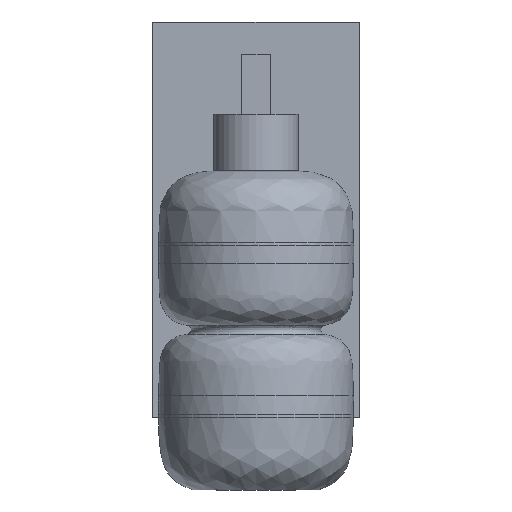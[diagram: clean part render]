
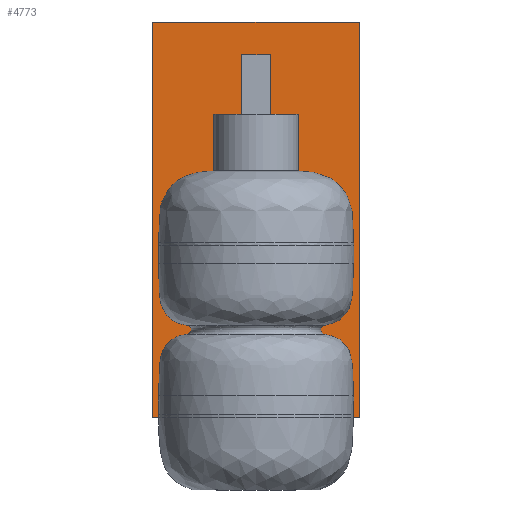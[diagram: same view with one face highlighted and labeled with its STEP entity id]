
A CAD part, front view. The second image highlights one B-rep face of the part: STEP entity #4773.
In plain terms, the highlighted planar face has unit normal (0, -1, 0).
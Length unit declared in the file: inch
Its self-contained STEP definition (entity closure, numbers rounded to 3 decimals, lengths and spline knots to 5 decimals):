
#555=FACE_BOUND('',#1010,.T.);
#697=FACE_OUTER_BOUND('',#1009,.T.);
#1009=EDGE_LOOP('',(#3639,#3640,#3641,#3642));
#1010=EDGE_LOOP('',(#3643,#3644,#3645,#3646));
#1362=LINE('',#10594,#1751);
#1364=LINE('',#10598,#1753);
#1365=LINE('',#10602,#1754);
#1366=LINE('',#10604,#1755);
#1367=LINE('',#10606,#1756);
#1368=LINE('',#10607,#1757);
#1369=LINE('',#10609,#1758);
#1370=LINE('',#10610,#1759);
#1751=VECTOR('',#5756,0.3937);
#1753=VECTOR('',#5760,0.3937);
#1754=VECTOR('',#5763,0.3937);
#1755=VECTOR('',#5764,0.3937);
#1756=VECTOR('',#5765,0.3937);
#1757=VECTOR('',#5766,0.3937);
#1758=VECTOR('',#5767,0.3937);
#1759=VECTOR('',#5768,0.3937);
#2181=VERTEX_POINT('',#10590);
#2182=VERTEX_POINT('',#10592);
#2183=VERTEX_POINT('',#10596);
#2184=VERTEX_POINT('',#10600);
#2185=VERTEX_POINT('',#10601);
#2186=VERTEX_POINT('',#10603);
#2187=VERTEX_POINT('',#10605);
#2188=VERTEX_POINT('',#10608);
#2711=EDGE_CURVE('',#2181,#2182,#1362,.T.);
#2713=EDGE_CURVE('',#2182,#2183,#1364,.T.);
#2714=EDGE_CURVE('',#2184,#2185,#1365,.T.);
#2715=EDGE_CURVE('',#2186,#2184,#1366,.T.);
#2716=EDGE_CURVE('',#2187,#2186,#1367,.T.);
#2717=EDGE_CURVE('',#2185,#2187,#1368,.T.);
#2718=EDGE_CURVE('',#2183,#2188,#1369,.T.);
#2719=EDGE_CURVE('',#2188,#2181,#1370,.T.);
#3639=ORIENTED_EDGE('',*,*,#2714,.F.);
#3640=ORIENTED_EDGE('',*,*,#2715,.F.);
#3641=ORIENTED_EDGE('',*,*,#2716,.F.);
#3642=ORIENTED_EDGE('',*,*,#2717,.F.);
#3643=ORIENTED_EDGE('',*,*,#2718,.T.);
#3644=ORIENTED_EDGE('',*,*,#2719,.T.);
#3645=ORIENTED_EDGE('',*,*,#2711,.T.);
#3646=ORIENTED_EDGE('',*,*,#2713,.T.);
#4585=PLANE('',#5170);
#4773=ADVANCED_FACE('',(#697,#555),#4585,.T.);
#5170=AXIS2_PLACEMENT_3D('',#10599,#5761,#5762);
#5756=DIRECTION('',(0.,0.,-1.));
#5760=DIRECTION('',(-1.,0.,0.));
#5761=DIRECTION('center_axis',(0.,-1.,0.));
#5762=DIRECTION('ref_axis',(0.,0.,-1.));
#5763=DIRECTION('',(0.,0.,1.));
#5764=DIRECTION('',(-1.,0.,0.));
#5765=DIRECTION('',(0.,0.,-1.));
#5766=DIRECTION('',(1.,0.,0.));
#5767=DIRECTION('',(0.,0.,1.));
#5768=DIRECTION('',(1.,0.,0.));
#10590=CARTESIAN_POINT('',(0.37487,3.83596,9.53472));
#10592=CARTESIAN_POINT('',(0.37487,3.83596,8.78472));
#10594=CARTESIAN_POINT('',(0.37487,3.83596,9.53472));
#10596=CARTESIAN_POINT('',(-0.37513,3.83596,8.78472));
#10598=CARTESIAN_POINT('',(0.37487,3.83596,8.78472));
#10599=CARTESIAN_POINT('Origin',(-2.75013,3.83596,10.41));
#10600=CARTESIAN_POINT('',(-2.75013,3.83596,-0.09));
#10601=CARTESIAN_POINT('',(-2.75013,3.83596,10.41));
#10602=CARTESIAN_POINT('',(-2.75013,3.83596,-0.09));
#10603=CARTESIAN_POINT('',(2.74987,3.83596,-0.09));
#10604=CARTESIAN_POINT('',(2.74987,3.83596,-0.09));
#10605=CARTESIAN_POINT('',(2.74987,3.83596,10.41));
#10606=CARTESIAN_POINT('',(2.74987,3.83596,10.41));
#10607=CARTESIAN_POINT('',(-2.75013,3.83596,10.41));
#10608=CARTESIAN_POINT('',(-0.37513,3.83596,9.53472));
#10609=CARTESIAN_POINT('',(-0.37513,3.83596,8.78472));
#10610=CARTESIAN_POINT('',(-0.37513,3.83596,9.53472));
